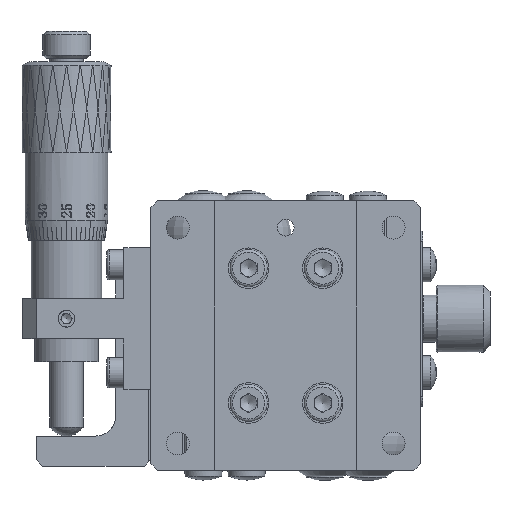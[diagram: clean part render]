
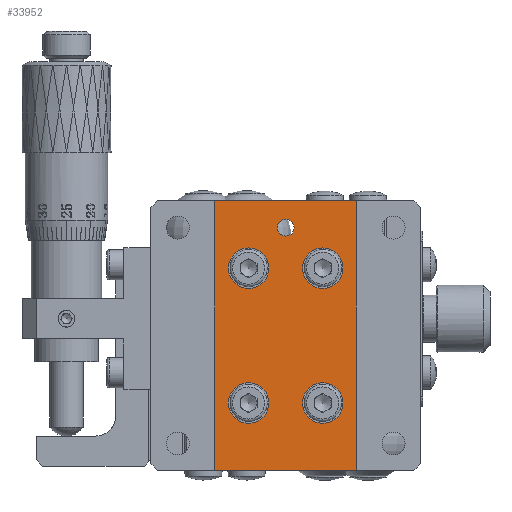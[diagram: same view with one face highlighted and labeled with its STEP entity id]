
A CAD part, front view. The second image highlights one B-rep face of the part: STEP entity #33952.
In plain terms, the highlighted planar face has unit normal (0, -1, 0).
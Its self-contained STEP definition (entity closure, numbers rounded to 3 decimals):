
#159 = FACE_BOUND ( 'NONE', #4716, .T. ) ;
#1002 = VERTEX_POINT ( 'NONE', #56758 ) ;
#1225 = FACE_BOUND ( 'NONE', #29192, .T. ) ;
#1249 = LINE ( 'NONE', #43068, #26998 ) ;
#1376 = VERTEX_POINT ( 'NONE', #61597 ) ;
#1801 = EDGE_CURVE ( 'NONE', #1376, #41977, #1249, .T. ) ;
#3089 = CIRCLE ( 'NONE', #21851, 3. ) ;
#4383 = DIRECTION ( 'NONE',  ( 0., -1., 0. ) ) ;
#4511 = VECTOR ( 'NONE', #7108, 1000. ) ;
#4716 = EDGE_LOOP ( 'NONE', ( #21158 ) ) ;
#4991 = AXIS2_PLACEMENT_3D ( 'NONE', #19864, #58390, #8134 ) ;
#7105 = CARTESIAN_POINT ( 'NONE',  ( 14.5, 0.5, 13. ) ) ;
#7108 = DIRECTION ( 'NONE',  ( 0., 0., 1. ) ) ;
#7218 = DIRECTION ( 'NONE',  ( 0., 0., 1. ) ) ;
#7458 = VERTEX_POINT ( 'NONE', #63572 ) ;
#8134 = DIRECTION ( 'NONE',  ( 0., 0., 1. ) ) ;
#9616 = EDGE_CURVE ( 'NONE', #1002, #1002, #3089, .T. ) ;
#9671 = DIRECTION ( 'NONE',  ( 0., 0., 1. ) ) ;
#10846 = CIRCLE ( 'NONE', #4991, 3. ) ;
#10948 = DIRECTION ( 'NONE',  ( -1., 0., 0. ) ) ;
#12353 = DIRECTION ( 'NONE',  ( 0., -1., 0. ) ) ;
#12359 = CIRCLE ( 'NONE', #28784, 1.25 ) ;
#13797 = CARTESIAN_POINT ( 'NONE',  ( 25.5, 0.5, 10. ) ) ;
#14133 = CARTESIAN_POINT ( 'NONE',  ( 30.5, 0.5, 40. ) ) ;
#17025 = DIRECTION ( 'NONE',  ( 0., 0., 1. ) ) ;
#17726 = ORIENTED_EDGE ( 'NONE', *, *, #39592, .F. ) ;
#17731 = PLANE ( 'NONE',  #20671 ) ;
#18465 = DIRECTION ( 'NONE',  ( 0., 0., 1. ) ) ;
#19182 = DIRECTION ( 'NONE',  ( 0., 1., 0. ) ) ;
#19327 = AXIS2_PLACEMENT_3D ( 'NONE', #26708, #32926, #66271 ) ;
#19864 = CARTESIAN_POINT ( 'NONE',  ( 25.5, 0.5, 30. ) ) ;
#20671 = AXIS2_PLACEMENT_3D ( 'NONE', #40127, #51850, #17025 ) ;
#20811 = VECTOR ( 'NONE', #52094, 1000. ) ;
#21158 = ORIENTED_EDGE ( 'NONE', *, *, #43788, .F. ) ;
#21553 = ORIENTED_EDGE ( 'NONE', *, *, #50892, .T. ) ;
#21851 = AXIS2_PLACEMENT_3D ( 'NONE', #13797, #12353, #7218 ) ;
#21959 = LINE ( 'NONE', #28223, #67411 ) ;
#23608 = EDGE_CURVE ( 'NONE', #50830, #50830, #12359, .T. ) ;
#23612 = FACE_BOUND ( 'NONE', #50727, .T. ) ;
#26708 = CARTESIAN_POINT ( 'NONE',  ( 14.5, 0.5, 10. ) ) ;
#26782 = DIRECTION ( 'NONE',  ( 0., 0., 1. ) ) ;
#26998 = VECTOR ( 'NONE', #9671, 1000. ) ;
#28140 = ORIENTED_EDGE ( 'NONE', *, *, #23608, .T. ) ;
#28223 = CARTESIAN_POINT ( 'NONE',  ( 9.5, 0.5, 0. ) ) ;
#28489 = CARTESIAN_POINT ( 'NONE',  ( 20., 0.5, 37.25 ) ) ;
#28784 = AXIS2_PLACEMENT_3D ( 'NONE', #69436, #19182, #18465 ) ;
#29192 = EDGE_LOOP ( 'NONE', ( #28140 ) ) ;
#29617 = ORIENTED_EDGE ( 'NONE', *, *, #44810, .F. ) ;
#29739 = CARTESIAN_POINT ( 'NONE',  ( 9.5, 0.5, 40. ) ) ;
#29996 = CARTESIAN_POINT ( 'NONE',  ( 9.5, 0.5, 40. ) ) ;
#30231 = VERTEX_POINT ( 'NONE', #7105 ) ;
#30263 = ORIENTED_EDGE ( 'NONE', *, *, #41514, .F. ) ;
#32926 = DIRECTION ( 'NONE',  ( 0., -1., 0. ) ) ;
#33131 = EDGE_LOOP ( 'NONE', ( #48079 ) ) ;
#33952 = ADVANCED_FACE ( 'NONE', ( #1225, #159, #51496, #34987, #23612, #57350 ), #17731, .F. ) ;
#34987 = FACE_OUTER_BOUND ( 'NONE', #70474, .T. ) ;
#34997 = CARTESIAN_POINT ( 'NONE',  ( 9.5, 0.5, 0. ) ) ;
#39592 = EDGE_CURVE ( 'NONE', #39984, #55299, #62148, .T. ) ;
#39984 = VERTEX_POINT ( 'NONE', #55667 ) ;
#40127 = CARTESIAN_POINT ( 'NONE',  ( 9.5, 0.5, 0. ) ) ;
#40884 = CIRCLE ( 'NONE', #47891, 3. ) ;
#41138 = VERTEX_POINT ( 'NONE', #63493 ) ;
#41514 = EDGE_CURVE ( 'NONE', #7458, #7458, #40884, .T. ) ;
#41977 = VERTEX_POINT ( 'NONE', #14133 ) ;
#43068 = CARTESIAN_POINT ( 'NONE',  ( 30.5, 0.5, 0. ) ) ;
#43228 = EDGE_LOOP ( 'NONE', ( #30263 ) ) ;
#43788 = EDGE_CURVE ( 'NONE', #30231, #30231, #47453, .T. ) ;
#44810 = EDGE_CURVE ( 'NONE', #1376, #39984, #21959, .T. ) ;
#46226 = LINE ( 'NONE', #29739, #20811 ) ;
#47453 = CIRCLE ( 'NONE', #19327, 3. ) ;
#47891 = AXIS2_PLACEMENT_3D ( 'NONE', #54622, #4383, #26782 ) ;
#48079 = ORIENTED_EDGE ( 'NONE', *, *, #70370, .F. ) ;
#50727 = EDGE_LOOP ( 'NONE', ( #53955 ) ) ;
#50830 = VERTEX_POINT ( 'NONE', #28489 ) ;
#50892 = EDGE_CURVE ( 'NONE', #41977, #55299, #46226, .T. ) ;
#51496 = FACE_BOUND ( 'NONE', #33131, .T. ) ;
#51850 = DIRECTION ( 'NONE',  ( 0., 1., 0. ) ) ;
#52094 = DIRECTION ( 'NONE',  ( -1., 0., 0. ) ) ;
#53955 = ORIENTED_EDGE ( 'NONE', *, *, #9616, .F. ) ;
#54622 = CARTESIAN_POINT ( 'NONE',  ( 14.5, 0.5, 30. ) ) ;
#55299 = VERTEX_POINT ( 'NONE', #29996 ) ;
#55667 = CARTESIAN_POINT ( 'NONE',  ( 9.5, 0.5, 0. ) ) ;
#56758 = CARTESIAN_POINT ( 'NONE',  ( 25.5, 0.5, 13. ) ) ;
#57350 = FACE_BOUND ( 'NONE', #43228, .T. ) ;
#58390 = DIRECTION ( 'NONE',  ( 0., -1., 0. ) ) ;
#60288 = ORIENTED_EDGE ( 'NONE', *, *, #1801, .T. ) ;
#61597 = CARTESIAN_POINT ( 'NONE',  ( 30.5, 0.5, 0. ) ) ;
#62148 = LINE ( 'NONE', #34997, #4511 ) ;
#63493 = CARTESIAN_POINT ( 'NONE',  ( 25.5, 0.5, 33. ) ) ;
#63572 = CARTESIAN_POINT ( 'NONE',  ( 14.5, 0.5, 33. ) ) ;
#66271 = DIRECTION ( 'NONE',  ( 0., 0., 1. ) ) ;
#67411 = VECTOR ( 'NONE', #10948, 1000. ) ;
#69436 = CARTESIAN_POINT ( 'NONE',  ( 20., 0.5, 36. ) ) ;
#70370 = EDGE_CURVE ( 'NONE', #41138, #41138, #10846, .T. ) ;
#70474 = EDGE_LOOP ( 'NONE', ( #21553, #17726, #29617, #60288 ) ) ;
